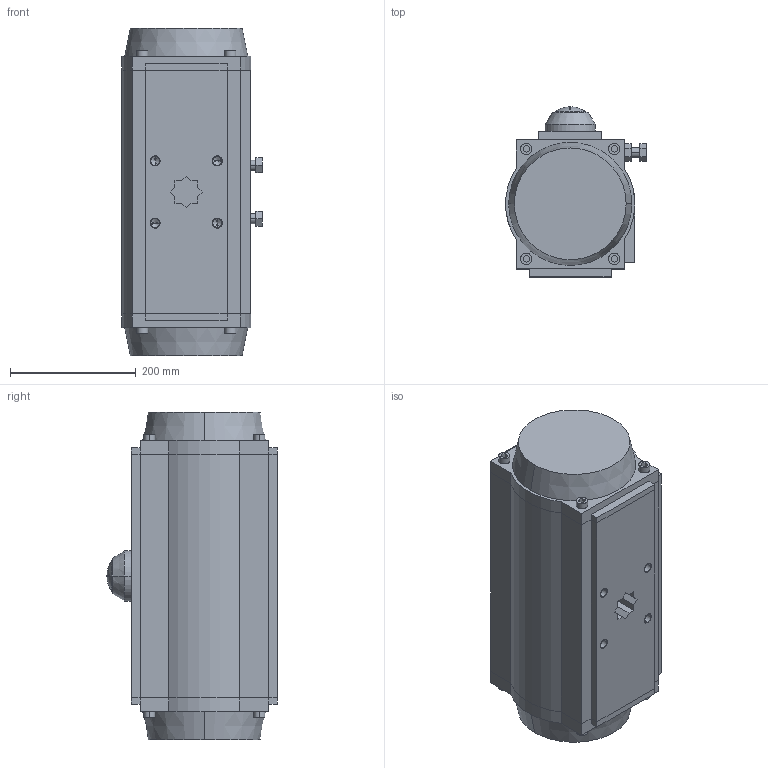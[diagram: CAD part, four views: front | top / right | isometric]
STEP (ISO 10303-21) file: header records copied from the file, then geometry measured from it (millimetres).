
FILE_DESCRIPTION((''),'2;1');
FILE_NAME('SB_PNEVMOPRIVOD_ASM','2024-02-03T',('DIMA'),(''),'PRO/ENGINEER BY PARAMETRIC TECHNOLOGY CORPORATION, 2008020','PRO/ENGINEER BY PARAMETRIC TECHNOLOGY CORPORATION, 2008020','');
FILE_SCHEMA(('CONFIG_CONTROL_DESIGN'));
Length unit declared in the file: millimetre
Products named in the file (7): KORPUS; KOLCO_50_GOST13942; KRISKA_VERX; VINT; KRISKA_LEFT; KRISKA_RIGHT; SB_PNEVMOPRIVOD_ASM
Assembly tree (6 placements, depth 2):
  SB_PNEVMOPRIVOD_ASM
    KORPUS
    KOLCO_50_GOST13942
    KRISKA_VERX
    VINT
    KRISKA_LEFT
    KRISKA_RIGHT
Bounding box: 223.64 x 270.98 x 522 mm (x, y, z)
Volume: 20495252.4 mm3; surface area: 717884.2 mm2
Topology: 6 solids, 26 shells, 402 faces, 1018 edges, 661 vertices
Faces by surface type: plane 228, cylinder 130, cone 42, sphere 2
Entity records: 12094 total; most frequent: DIRECTION 2138, CARTESIAN_POINT 2118, ORIENTED_EDGE 1884, EDGE_CURVE 984, AXIS2_PLACEMENT_3D 743, VERTEX_POINT 661, VECTOR 652, LINE 652
